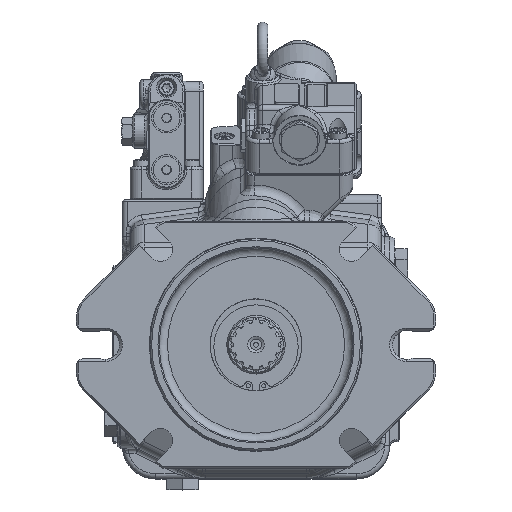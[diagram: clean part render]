
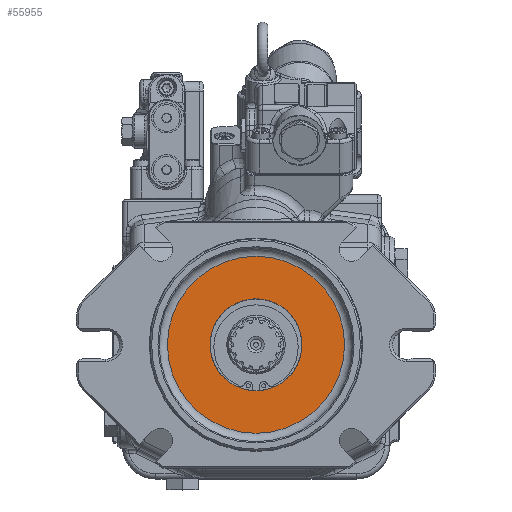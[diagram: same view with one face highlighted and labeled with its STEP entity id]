
A CAD part, top view. The second image highlights one B-rep face of the part: STEP entity #55955.
In plain terms, the highlighted planar face has unit normal (0, 0, 1).
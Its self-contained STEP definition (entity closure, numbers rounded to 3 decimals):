
#3190=FACE_BOUND('',#11228,.T.);
#4166=CIRCLE('',#60104,27.5);
#4265=CIRCLE('',#60347,53.);
#7697=FACE_OUTER_BOUND('',#11227,.T.);
#11227=EDGE_LOOP('',(#43678));
#11228=EDGE_LOOP('',(#43679));
#24425=VERTEX_POINT('',#91444);
#24728=VERTEX_POINT('',#92743);
#30994=EDGE_CURVE('',#24425,#24425,#4166,.T.);
#31393=EDGE_CURVE('',#24728,#24728,#4265,.T.);
#43678=ORIENTED_EDGE('',*,*,#31393,.F.);
#43679=ORIENTED_EDGE('',*,*,#30994,.T.);
#53793=PLANE('',#60351);
#55955=ADVANCED_FACE('',(#7697,#3190),#53793,.F.);
#60104=AXIS2_PLACEMENT_3D('',#91446,#70136,#70137);
#60347=AXIS2_PLACEMENT_3D('',#92745,#70817,#70818);
#60351=AXIS2_PLACEMENT_3D('',#92751,#70826,#70827);
#70136=DIRECTION('center_axis',(0.,0.,-1.));
#70137=DIRECTION('ref_axis',(0.,1.,0.));
#70817=DIRECTION('center_axis',(0.,0.,-1.));
#70818=DIRECTION('ref_axis',(-1.,0.,0.));
#70826=DIRECTION('center_axis',(0.,0.,-1.));
#70827=DIRECTION('ref_axis',(0.,1.,0.));
#91444=CARTESIAN_POINT('',(-29.228,-25.34,113.172));
#91446=CARTESIAN_POINT('Origin',(-29.228,2.16,113.172));
#92743=CARTESIAN_POINT('',(-29.228,55.16,113.172));
#92745=CARTESIAN_POINT('Origin',(-29.228,2.16,113.172));
#92751=CARTESIAN_POINT('Origin',(-29.228,2.16,113.172));
